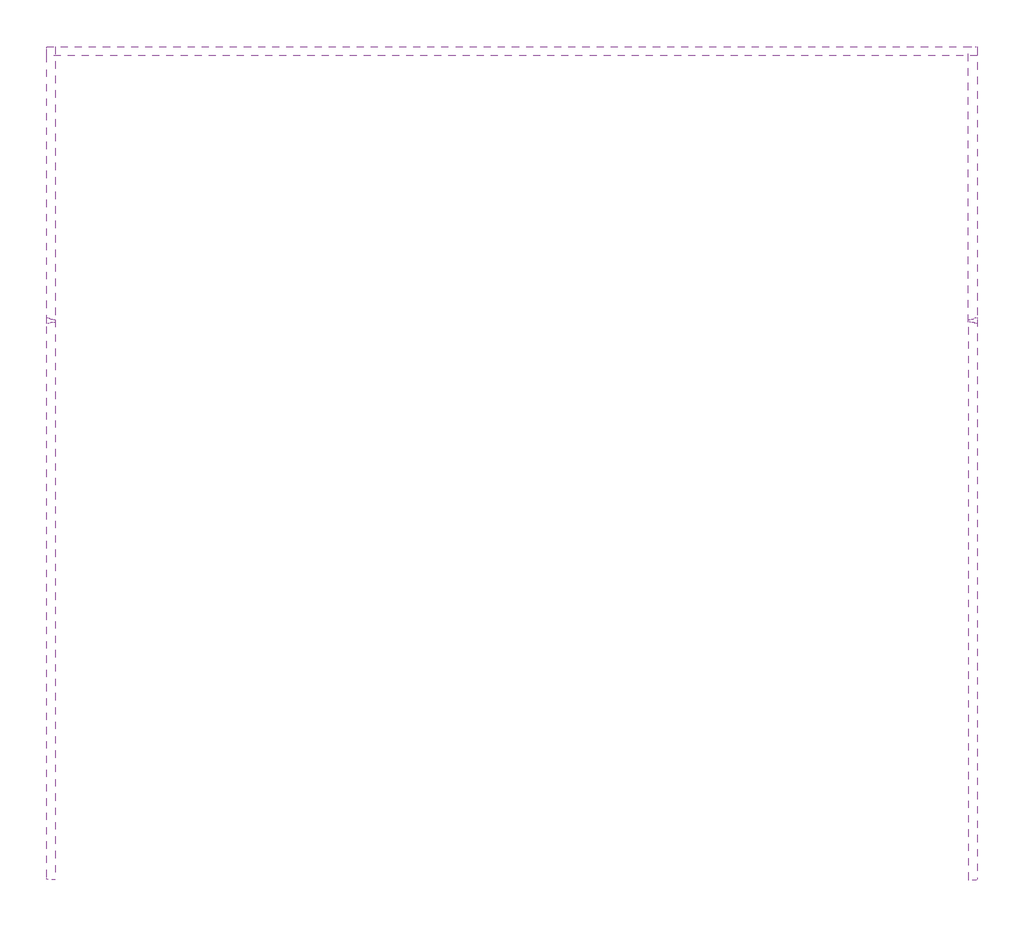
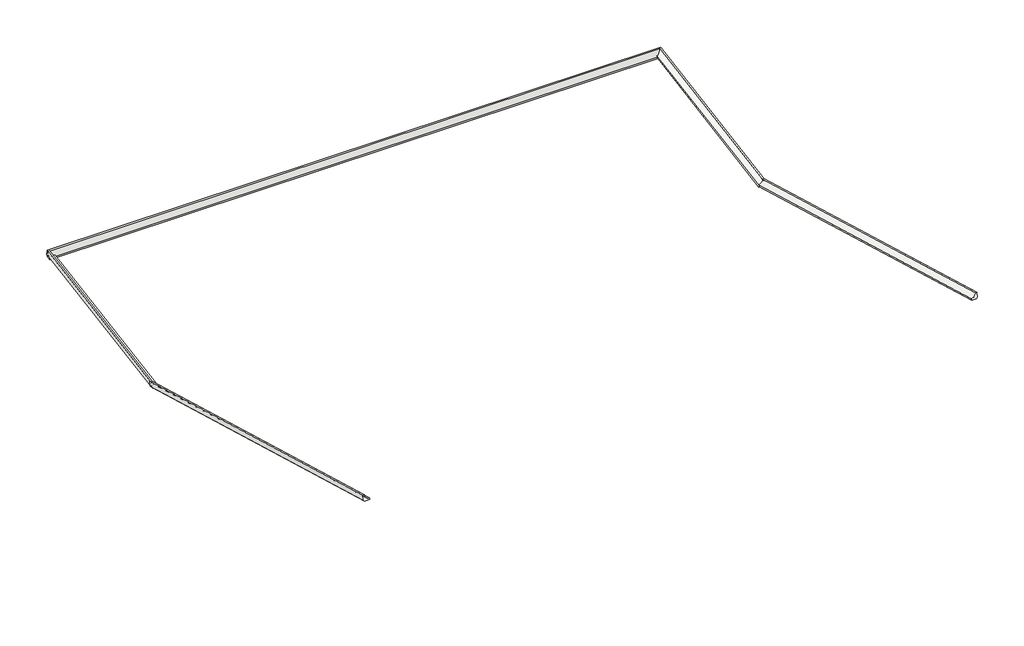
# One storey: 5 slabs.
"""IFC4 building model written with IfcOpenShell, lengths in millimetres."""

from ifc_helpers import new_model, si_unit, origin, place, context, project, spatial, transform, mapped, element, save
from components import slab_b4ade6bd, slab_efdcb582, slab_3dd24156, slab_ba15e0cd, slab_a88a178b

model = new_model("IFC4")

# Units and contexts
model_context = context("Model", 3, world=origin())
ifc_project = project(units=[si_unit("LENGTHUNIT", "METRE", prefix="MILLI")], contexts=[model_context])

# Site, building, storey
site = spatial("IfcSite", under=ifc_project)
building = spatial("IfcBuilding", under=site)
storey = spatial("IfcBuildingStorey", under=building, Name="4_NFondo2P1 -3.3", Elevation=-3300.0)

# Slabs
placement = place(None, origin())
slab_shape = slab_b4ade6bd(model_context)
element("IfcSlab", 1, ObjectType="ROSA GRES_188 : Pieza 188_Serena_Ocra_Anti-Slip", at=placement, inside=storey, context=model_context, shape_type="MappedRepresentation", body=[
    mapped(slab_shape, transform((9292.0630023, 8789.3960609, -1208.6995709), x_axis=(0.0, 0.9629640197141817, -0.26962992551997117), y_axis=(-1.0, 0.0, 0.0), z_axis=(0.0, 0.269629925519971, 0.9629640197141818))),
])
slab_2_shape = slab_efdcb582(model_context)
element("IfcSlab", 2, ObjectType="ROSA GRES_188 : Pieza 188_Serena_Ocra_Anti-Slip", at=placement, inside=storey, context=model_context, shape_type="MappedRepresentation", body=[
    mapped(slab_2_shape, transform((5131.1161794, 11285.6863443, -1911.745263), x_axis=(0.0, 0.9859735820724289, 0.16690145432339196), y_axis=(-1.0, 0.0, 0.0), z_axis=(0.0, -0.1669014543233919, 0.9859735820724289))),
])
slab_3_shape = slab_3dd24156(model_context)
element("IfcSlab", 3, ObjectType="ROSA GRES_188 : Pieza 188_Serena_Ocra_Anti-Slip", at=placement, inside=storey, context=model_context, shape_type="MappedRepresentation", body=[
    mapped(slab_3_shape, transform((5131.1161794, 12518.4598858, -1704.8136752), x_axis=(1.0, 0.0, 0.0), y_axis=(0.0, 0.9859735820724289, 0.1669014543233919), z_axis=(0.0, -0.1669014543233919, 0.9859735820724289))),
])
slab_4_shape = slab_ba15e0cd(model_context)
element("IfcSlab", 4, ObjectType="ROSA GRES_188 : Pieza 188_Serena_Ocra_Anti-Slip", at=placement, inside=storey, context=model_context, shape_type="MappedRepresentation", body=[
    mapped(slab_4_shape, transform((9291.7145909, 11286.8065754, -1911.555635), x_axis=(0.0, 0.985973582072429, 0.16690145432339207), y_axis=(-1.0000000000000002, 0.0, 0.0), z_axis=(0.0, -0.1669014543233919, 0.9859735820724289))),
])
slab_5_shape = slab_a88a178b(model_context)
element("IfcSlab", 5, ObjectType="ROSA GRES_188 : Pieza 188_Serena_Ocra_Anti-Slip", at=placement, inside=storey, context=model_context, shape_type="MappedRepresentation", body=[
    mapped(slab_5_shape, transform((5131.1161794, 11295.0529641, -1910.2835038), x_axis=(0.0, -0.9629640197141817, 0.26962992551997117), y_axis=(1.0, 0.0, 0.0), z_axis=(0.0, 0.269629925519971, 0.9629640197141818))),
])

save(model, "model.ifc")
